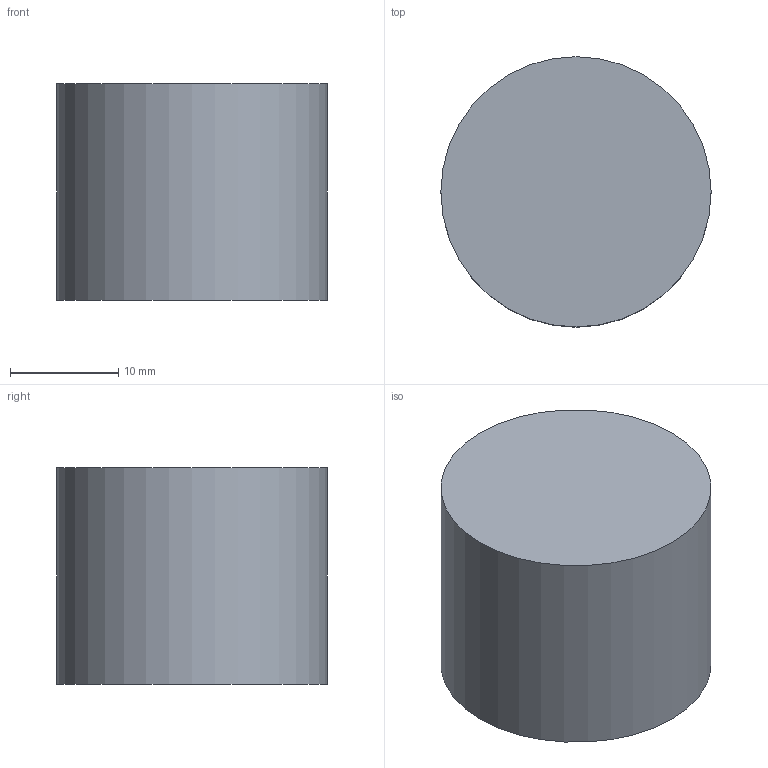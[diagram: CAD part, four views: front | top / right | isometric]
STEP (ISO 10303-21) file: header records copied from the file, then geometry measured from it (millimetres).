
FILE_DESCRIPTION(/* description */ (''),/* implementation_level */ '2;1');
FILE_NAME(/* name */ 'REF_EM_nominal_25x20.step',/* time_stamp */ '2026-11-14T21:40:02-08:00',/* author */ (''),/* organization */ (''),/* preprocessor_version */ 'ST-DEVELOPER v20.2',/* originating_system */ 'Autodesk Translation Framework v15.17.0.0',/* authorisation */ '');
FILE_SCHEMA (('AUTOMOTIVE_DESIGN { 1 0 10303 214 3 1 1 }'));
Length unit declared in the file: millimetre
Products named in the file (1): 2026-11-14-21-40-02-405
Bounding box: 25 x 25 x 20 mm (x, y, z)
Volume: 9817.5 mm3; surface area: 2552.5 mm2
Topology: 1 solids, 1 shells, 3 faces, 3 edges, 2 vertices
Faces by surface type: plane 2, cylinder 1
Full cylindrical faces by diameter (mm): 25 x1
Entity records: 92 total; most frequent: DIRECTION 13, CARTESIAN_POINT 9, ORIENTED_EDGE 6, AXIS2_PLACEMENT_3D 6, FACE_OUTER_BOUND 3, EDGE_LOOP 3, EDGE_CURVE 3, ADVANCED_FACE 3
